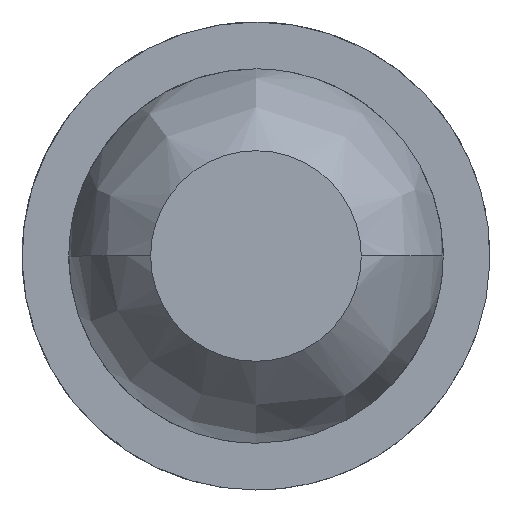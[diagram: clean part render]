
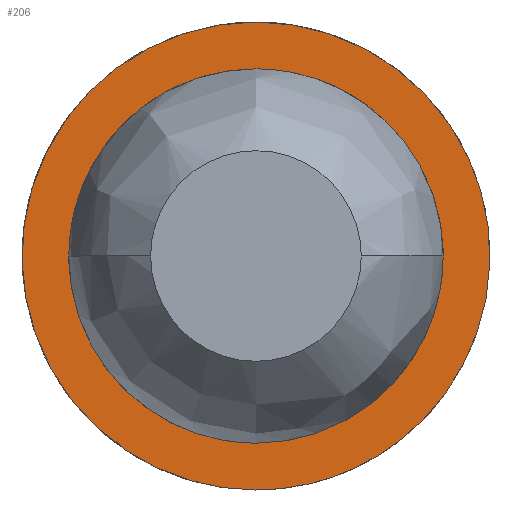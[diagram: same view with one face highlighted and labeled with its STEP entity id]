
A CAD part, left-side view. The second image highlights one B-rep face of the part: STEP entity #206.
In plain terms, the highlighted free-form (B-spline) face has degree [1, 1] with [2, 2] control points.
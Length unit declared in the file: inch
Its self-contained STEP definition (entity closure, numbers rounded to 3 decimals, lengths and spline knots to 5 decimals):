
#1 = CARTESIAN_POINT ( 'NONE',  ( 1.22, 0.025, -0.00663 ) ) ;
#12 = CARTESIAN_POINT ( 'NONE',  ( 1.22, 0., 0.05 ) ) ;
#21 = EDGE_CURVE ( 'NONE', #131, #560, #478, .T. ) ;
#35 = ORIENTED_EDGE ( 'NONE', *, *, #312, .F. ) ;
#38 = CARTESIAN_POINT ( 'NONE',  ( 1.22, 0.04464, 0.02607 ) ) ;
#60 = CARTESIAN_POINT ( 'NONE',  ( 1.22, 0., -0.025 ) ) ;
#76 = VERTEX_POINT ( 'NONE', #158 ) ;
#94 = CARTESIAN_POINT ( 'NONE',  ( 1.22, 0.04464, -0.02607 ) ) ;
#113 = ORIENTED_EDGE ( 'NONE', *, *, #21, .T. ) ;
#119 = EDGE_CURVE ( 'NONE', #406, #76, #278, .T. ) ;
#131 = VERTEX_POINT ( 'NONE', #60 ) ;
#144 = FACE_OUTER_BOUND ( 'NONE', #240, .T. ) ;
#145 = CARTESIAN_POINT ( 'NONE',  ( 1.22, 0., 0.025 ) ) ;
#153 = CARTESIAN_POINT ( 'NONE',  ( 1.22, -0.1, -0.05 ) ) ;
#158 = CARTESIAN_POINT ( 'NONE',  ( 1.22, 0., -0.05 ) ) ;
#178 = B_SPLINE_SURFACE_WITH_KNOTS ( 'NONE', 1, 1, ( 
 ( #422, #377 ),
 ( #287, #413 ) ),
 .UNSPECIFIED., .F., .F., .F.,
 ( 2, 2 ),
 ( 2, 2 ),
 ( 0., 1. ),
 ( 0., 1. ),
 .UNSPECIFIED. ) ;
#185 = CARTESIAN_POINT ( 'NONE',  ( 1.22, 0., -0.05 ) ) ;
#203 = CARTESIAN_POINT ( 'NONE',  ( 1.22, -0.1, 0.05 ) ) ;
#204 = CARTESIAN_POINT ( 'NONE',  ( 1.22, -0.05, 0.025 ) ) ;
#206 = ADVANCED_FACE ( 'NONE', ( #595, #144 ), #178, .F. ) ;
#210 = EDGE_LOOP ( 'NONE', ( #113, #35 ) ) ;
#227 = CARTESIAN_POINT ( 'NONE',  ( 1.22, 0.02607, -0.04464 ) ) ;
#229 = CARTESIAN_POINT ( 'NONE',  ( 1.22, 0.025, 0.00663 ) ) ;
#234 = CARTESIAN_POINT ( 'NONE',  ( 1.22, 0.01313, -0.05 ) ) ;
#240 = EDGE_LOOP ( 'NONE', ( #348, #536 ) ) ;
#247 = CARTESIAN_POINT ( 'NONE',  ( 1.22, 0., 0.025 ) ) ;
#249 = CARTESIAN_POINT ( 'NONE',  ( 1.22, 0., -0.025 ) ) ;
#273 = CARTESIAN_POINT ( 'NONE',  ( 1.22, 0.02237, -0.01299 ) ) ;
#278 =( BOUNDED_CURVE ( )  B_SPLINE_CURVE ( 3, ( #12, #203, #153, #448 ),
 .UNSPECIFIED., .F., .T. ) 
 B_SPLINE_CURVE_WITH_KNOTS ( ( 4, 4 ),
 ( -3.14159, 0. ),
 .UNSPECIFIED. ) 
 CURVE ( )  GEOMETRIC_REPRESENTATION_ITEM ( )  RATIONAL_B_SPLINE_CURVE ( ( 1., 0.333, 0.333, 1. ) ) 
 REPRESENTATION_ITEM ( '' )  );
#283 =( BOUNDED_CURVE ( )  B_SPLINE_CURVE ( 3, ( #249, #482, #204, #247 ),
 .UNSPECIFIED., .F., .T. ) 
 B_SPLINE_CURVE_WITH_KNOTS ( ( 4, 4 ),
 ( -3.14159, 0. ),
 .UNSPECIFIED. ) 
 CURVE ( )  GEOMETRIC_REPRESENTATION_ITEM ( )  RATIONAL_B_SPLINE_CURVE ( ( 1., 0.333, 0.333, 1. ) ) 
 REPRESENTATION_ITEM ( '' )  );
#287 = CARTESIAN_POINT ( 'NONE',  ( 1.22, -0.0506, -0.0506 ) ) ;
#312 = EDGE_CURVE ( 'NONE', #131, #560, #283, .T. ) ;
#324 = CARTESIAN_POINT ( 'NONE',  ( 1.22, 0.05, 0.01313 ) ) ;
#330 = CARTESIAN_POINT ( 'NONE',  ( 1.22, 0.00663, -0.025 ) ) ;
#348 = ORIENTED_EDGE ( 'NONE', *, *, #119, .F. ) ;
#371 = CARTESIAN_POINT ( 'NONE',  ( 1.22, 0.01313, 0.05 ) ) ;
#377 = CARTESIAN_POINT ( 'NONE',  ( 1.22, 0.0506, 0.0506 ) ) ;
#378 = CARTESIAN_POINT ( 'NONE',  ( 1.22, 0.01299, 0.02237 ) ) ;
#392 = B_SPLINE_CURVE_WITH_KNOTS ( 'NONE', 3,
 ( #594, #371, #551, #38, #324, #457, #94, #227, #234, #185 ),
 .UNSPECIFIED., .F., .F.,
 ( 4, 2, 2, 2, 4 ),
 ( 0., 0.7854, 1.5708, 2.35619, 3.14159 ),
 .UNSPECIFIED. ) ;
#406 = VERTEX_POINT ( 'NONE', #574 ) ;
#413 = CARTESIAN_POINT ( 'NONE',  ( 1.22, 0.0506, -0.0506 ) ) ;
#418 = CARTESIAN_POINT ( 'NONE',  ( 1.22, 0., -0.025 ) ) ;
#420 = CARTESIAN_POINT ( 'NONE',  ( 1.22, 0.01299, -0.02237 ) ) ;
#422 = CARTESIAN_POINT ( 'NONE',  ( 1.22, -0.0506, 0.0506 ) ) ;
#423 = CARTESIAN_POINT ( 'NONE',  ( 1.22, 0.02237, 0.01299 ) ) ;
#448 = CARTESIAN_POINT ( 'NONE',  ( 1.22, 0., -0.05 ) ) ;
#452 = CARTESIAN_POINT ( 'NONE',  ( 1.22, 0., 0.025 ) ) ;
#457 = CARTESIAN_POINT ( 'NONE',  ( 1.22, 0.05, -0.01313 ) ) ;
#478 = B_SPLINE_CURVE_WITH_KNOTS ( 'NONE', 3,
 ( #418, #330, #420, #273, #1, #229, #423, #378, #591, #145 ),
 .UNSPECIFIED., .F., .F.,
 ( 4, 2, 2, 2, 4 ),
 ( 0., 0.7854, 1.5708, 2.35619, 3.14159 ),
 .UNSPECIFIED. ) ;
#482 = CARTESIAN_POINT ( 'NONE',  ( 1.22, -0.05, -0.025 ) ) ;
#536 = ORIENTED_EDGE ( 'NONE', *, *, #576, .T. ) ;
#551 = CARTESIAN_POINT ( 'NONE',  ( 1.22, 0.02607, 0.04464 ) ) ;
#560 = VERTEX_POINT ( 'NONE', #452 ) ;
#574 = CARTESIAN_POINT ( 'NONE',  ( 1.22, 0., 0.05 ) ) ;
#576 = EDGE_CURVE ( 'NONE', #406, #76, #392, .T. ) ;
#591 = CARTESIAN_POINT ( 'NONE',  ( 1.22, 0.00663, 0.025 ) ) ;
#594 = CARTESIAN_POINT ( 'NONE',  ( 1.22, 0., 0.05 ) ) ;
#595 = FACE_BOUND ( 'NONE', #210, .T. ) ;
